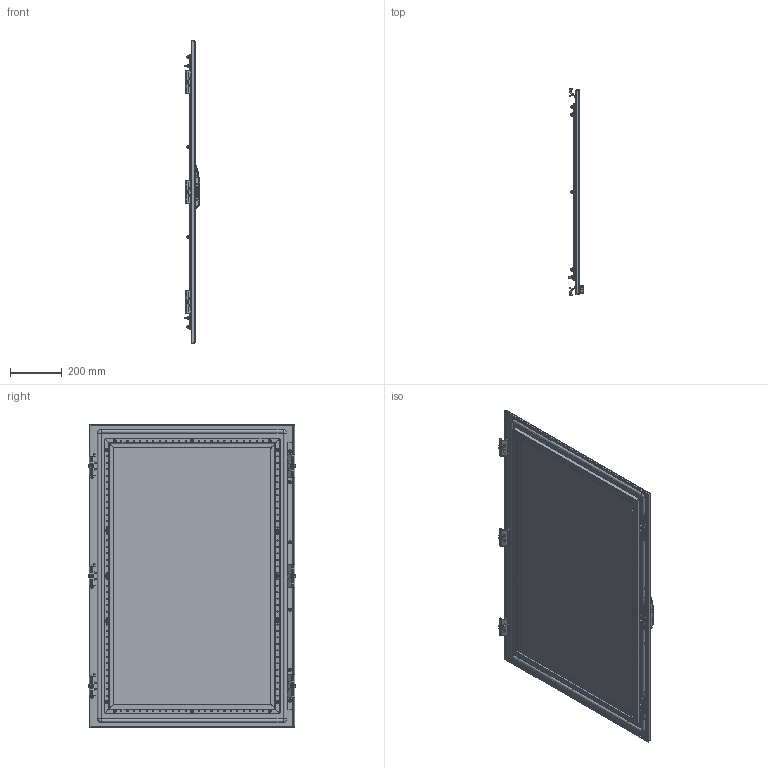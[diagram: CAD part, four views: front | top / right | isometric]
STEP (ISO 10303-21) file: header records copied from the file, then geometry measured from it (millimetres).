
FILE_DESCRIPTION(('STEP AP203'), '1');
FILE_NAME('3413 Îáçîðíàÿ äâåðü ÑÁ', '', ('UNSPECIFIED'), ('UNSPECIFIED'), 'C3D Converter', 'C3D Toolkit', '');
FILE_SCHEMA(('CONFIG_CONTROL_DESIGN'));
Length unit declared in the file: millimetre
Products named in the file (29): 3413.120.80 СБ; 3414; 3423; 3422.01; 2952; 3009.05; 3009.05.01; 3622.01; 3009.08; 3009.08.01; 3418; 3419; 3434
Assembly tree (105 placements, depth 4):
  3413.120.80 СБ
    3414
      3423
      3422.01  x3
      (unnamed)  x14
      (unnamed)  x6
      (unnamed)  x2
    (unnamed)  x16
    (unnamed)  x22
    (unnamed)  x6
    2952
      (unnamed)
        (unnamed)
        (unnamed)
        (unnamed)
        (unnamed)
        (unnamed)
    (unnamed)  x2
    3009.05  x3
      3009.05.01
      (unnamed)
      (unnamed)
    3622.01  x3
    (unnamed)  x3
    3009.08  x3
      3009.08.01
      (unnamed)
      (unnamed)
    3418  x2
    3419  x2
    3434
Bounding box: 59.5 x 797.03 x 1171 mm (x, y, z)
Volume: 5115541.4 mm3; surface area: 3123080.6 mm2
Topology: 116 solids, 116 shells, 3063 faces, 7504 edges, 4857 vertices
Faces by surface type: plane 1524, cylinder 890, cone 409, bspline 151, torus 78, sphere 11
Full cylindrical faces by diameter (mm): 0.5 x22, 4.134 x6, 4.3 x2, 4.5 x120, 4.917 x22, 5 x19, 5.2 x1, 5.8 x6, 6 x31, 6.1 x3, 6.6 x22, 6.75 x22, 7 x6, 7.3 x22, 7.5 x22, 8 x16, 8.3 x12, 8.5 x1, 9.2 x14, 10 x23, 10.5 x3, 12 x25, 13 x1, 15 x1, 20.7 x1, 21 x1
Entity records: 66035 total; most frequent: CARTESIAN_POINT 29723, ORIENTED_EDGE 5798, DIRECTION 5494, EDGE_CURVE 2899, AXIS2_PLACEMENT_3D 2068, VERTEX_POINT 1925, EDGE_LOOP 1654, LINE 1358
